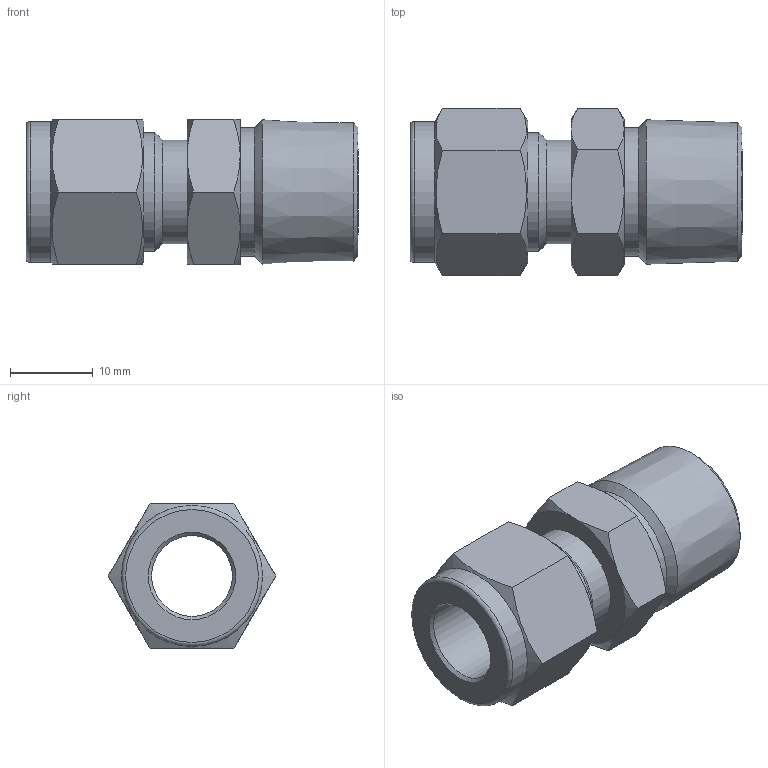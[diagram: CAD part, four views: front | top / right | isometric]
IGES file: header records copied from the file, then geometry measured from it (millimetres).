
Global section: file name: No Iges File Name specified; native system: Autodesk Inventor 2012; preprocessor: AutoDesk Inventor Iges Exporter R2012; author: 硅己绕,,1; organization: 1; date: 20150603.093045; units: millimetre
Bounding box: 40.02 x 20.21 x 17.5 mm (x, y, z)
Volume: 6175.2 mm3; surface area: 4003 mm2
Topology: 1 solids, 1 shells, 43 faces, 91 edges, 53 vertices
Faces by surface type: cone 18, plane 17, cylinder 4, revolution 3, torus 1
Full cylindrical faces by diameter (mm): 12.5 x1, 14.28 x1, 15.5 x1, 17 x1
